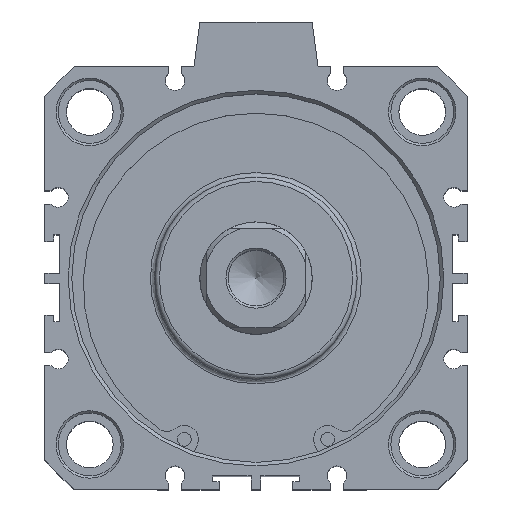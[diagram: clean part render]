
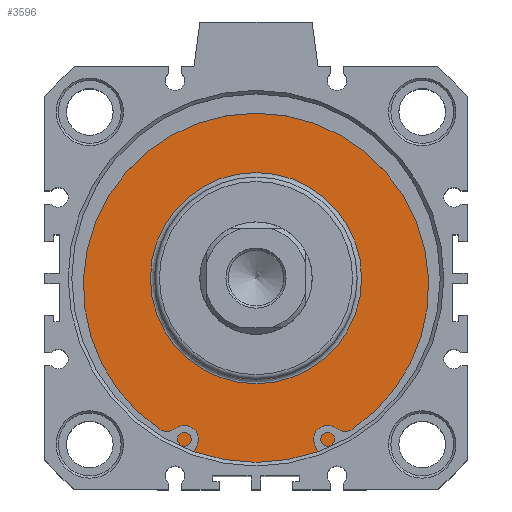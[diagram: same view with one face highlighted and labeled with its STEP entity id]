
A CAD part, top view. The second image highlights one B-rep face of the part: STEP entity #3596.
In plain terms, the highlighted planar face has unit normal (0, 0, 1).
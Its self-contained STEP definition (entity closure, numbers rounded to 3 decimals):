
#3545=CARTESIAN_POINT('',(2.033,24.337,75.6));
#3546=VERTEX_POINT('',#3545);
#3547=CARTESIAN_POINT('',(2.033,0.837,75.6));
#3548=DIRECTION('',(0.0,0.0,1.0));
#3549=DIRECTION('',(0.0,-1.0,0.0));
#3550=AXIS2_PLACEMENT_3D('',#3547,#3548,#3549);
#3551=CIRCLE('',#3550,23.5);
#3552=EDGE_CURVE('',#3546,#3546,#3551,.T.);
#3577=CARTESIAN_POINT('',(2.033,32.587,75.6));
#3578=DIRECTION('',(0.0,0.0,1.0));
#3579=DIRECTION('',(1.0,0.0,0.0));
#3580=AXIS2_PLACEMENT_3D('',#3577,#3578,#3579);
#3581=PLANE('',#3580);
#3582=CARTESIAN_POINT('',(2.033,41.837,75.6));
#3583=VERTEX_POINT('',#3582);
#3584=CARTESIAN_POINT('',(2.033,0.837,75.6));
#3585=DIRECTION('',(0.0,0.0,-1.0));
#3586=DIRECTION('',(0.0,1.0,0.0));
#3587=AXIS2_PLACEMENT_3D('',#3584,#3585,#3586);
#3588=CIRCLE('',#3587,41.);
#3589=EDGE_CURVE('',#3583,#3583,#3588,.T.);
#3590=ORIENTED_EDGE('',*,*,#3589,.F.);
#3591=EDGE_LOOP('',(#3590));
#3592=FACE_OUTER_BOUND('',#3591,.T.);
#3593=ORIENTED_EDGE('',*,*,#3552,.F.);
#3594=EDGE_LOOP('',(#3593));
#3595=FACE_BOUND('',#3594,.T.);
#3596=ADVANCED_FACE('',(#3592,#3595),#3581,.T.);
